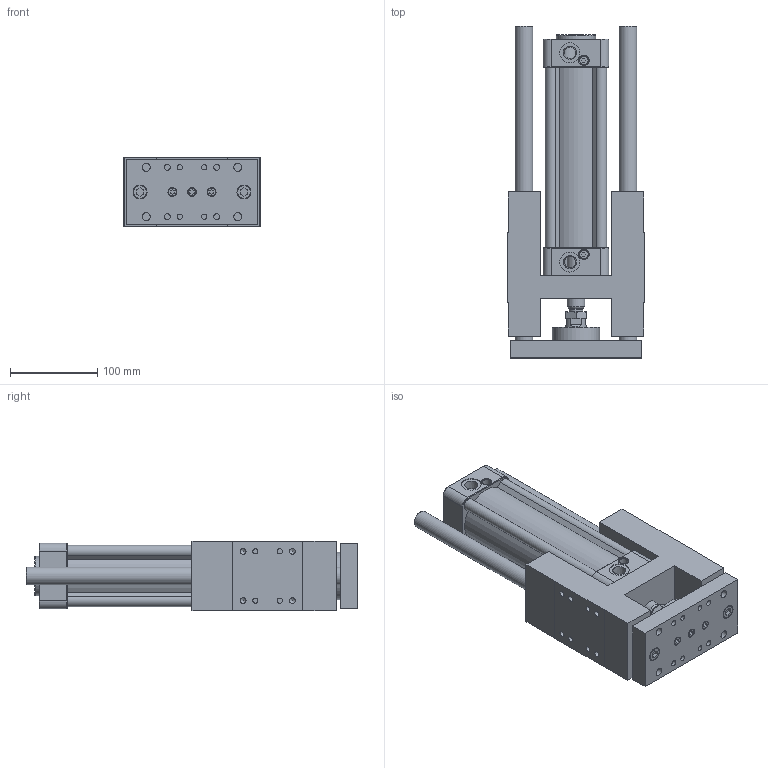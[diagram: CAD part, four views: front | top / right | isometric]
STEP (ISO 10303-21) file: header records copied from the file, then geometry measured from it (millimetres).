
FILE_DESCRIPTION((''),'2;1');
FILE_NAME('I:\3D電子目錄\氣缸\GHB(U)\GHB(U)\GHB(U)63\GHB(U)63x150.stp','2007-10-22T09:02:18',('Administrator'),(''),'Autodesk Inventor 11','Autodesk Inventor 11','');
FILE_SCHEMA(('AUTOMOTIVE_DESIGN { 1 0 10303 214 1 1 1 1 }'));
Length unit declared in the file: millimetre
Products named in the file (1): GHB(U)63
Bounding box: 156 x 380 x 80 mm (x, y, z)
Volume: 1964848.9 mm3; surface area: 381787.9 mm2
Topology: 1 solids, 13 shells, 789 faces, 1754 edges, 1088 vertices
Faces by surface type: plane 303, bspline 237, cylinder 159, cone 88, torus 2
Full cylindrical faces by diameter (mm): 2.5 x2, 6 x4, 6.647 x4, 6.7 x2, 6.75 x4, 7.25 x4, 7.4 x4, 7.5 x2, 8.5 x9, 9 x2, 9.8 x4, 10 x5, 11.5 x1, 11.9 x1, 12 x3, 13 x4, 14 x8, 14.5 x2, 16 x3, 20 x4, 23 x3, 25 x1, 26 x2, 45 x1, 54 x1, 63 x1
Entity records: 22867 total; most frequent: CARTESIAN_POINT 7086, DIRECTION 3132, ORIENTED_EDGE 3076, EDGE_CURVE 1538, AXIS2_PLACEMENT_3D 1207, EDGE_LOOP 1075, VERTEX_POINT 1047, FACE_OUTER_BOUND 789
